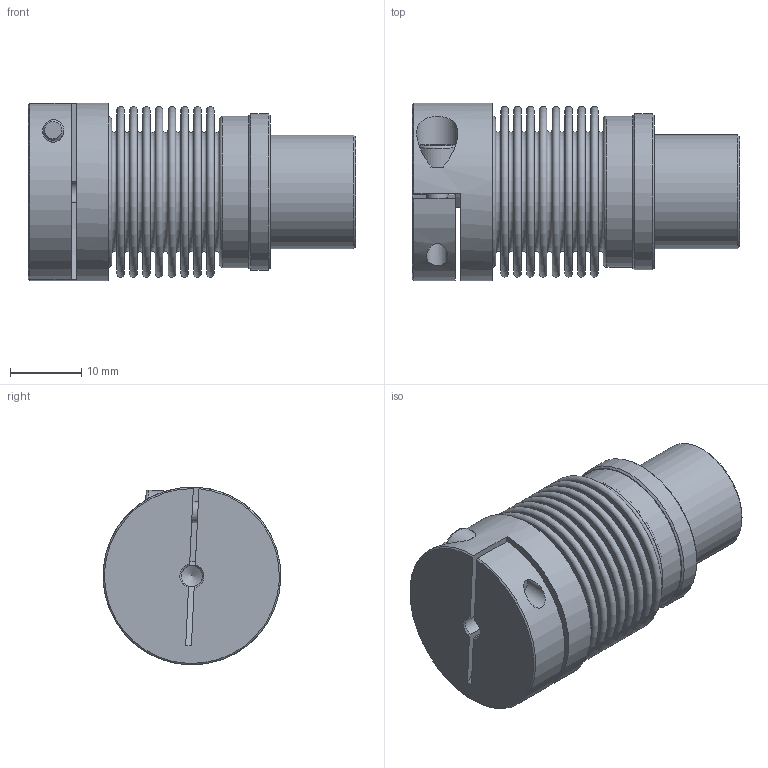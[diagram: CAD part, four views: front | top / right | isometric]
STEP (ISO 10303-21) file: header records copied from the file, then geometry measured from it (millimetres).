
FILE_DESCRIPTION( ( 'Unknown' ), '1' );
FILE_NAME( 'K:/Konstruktion/cad kunden/3D - Daten/KB3/KB3-20-34.stp', 'Unknown', ( 'Unknown' ), ( 'Unknown' ), 'PSStep 16.0.42', 'Unknown', ' ' );
FILE_SCHEMA( ( 'AUTOMOTIVE_DESIGN { 1 0 10303 214 1 1 1 1 }' ) );
Length unit declared in the file: millimetre
Products named in the file (6): Assem1; KN20_Standard_4; Socket Head Cap Screw_DIN_DIN 912 M3 x 10 --- 10N_4; Socket Head Cap Screw_DIN_DIN 912 M4 x 16 --- 16N; SN20; BM20_Standard_0
Assembly tree (5 placements, depth 2):
  Assem1
    KN20_Standard_4
    Socket Head Cap Screw_DIN_DIN 912 M3 x 10 --- 10N_4
    Socket Head Cap Screw_DIN_DIN 912 M4 x 16 --- 16N
    SN20
    BM20_Standard_0
Bounding box: 46 x 24.97 x 25 mm (x, y, z)
Volume: 10816 mm3; surface area: 15370.3 mm2
Topology: 5 solids, 5 shells, 155 faces, 299 edges, 192 vertices
Faces by surface type: plane 81, torus 42, cylinder 21, cone 11
Full cylindrical faces by diameter (mm): 3 x3, 3.2 x1, 4 x1, 4.5 x1, 5.5 x1, 7 x1, 16 x1, 21 x3, 21.3 x2, 22 x1, 25 x1
Entity records: 5017 total; most frequent: CARTESIAN_POINT 699, DIRECTION 667, ORIENTED_EDGE 434, AXIS2_PLACEMENT_3D 300, EDGE_LOOP 271, EDGE_CURVE 217, FACE_OUTER_BOUND 212, VERTEX_POINT 196
